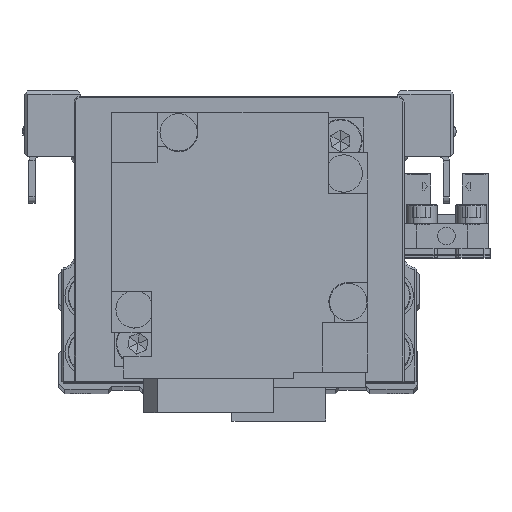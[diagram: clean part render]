
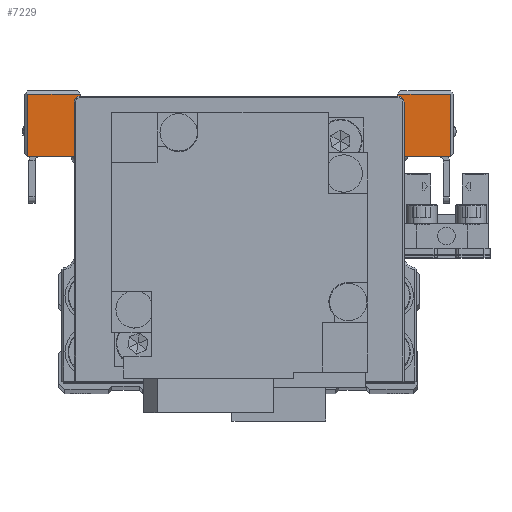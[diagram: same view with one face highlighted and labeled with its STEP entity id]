
A CAD part, top view. The second image highlights one B-rep face of the part: STEP entity #7229.
In plain terms, the highlighted planar face has unit normal (0, 0, 1) as drawn and (1, 0, 0) by its records, which use the part's own axes.
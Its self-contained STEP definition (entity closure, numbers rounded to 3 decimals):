
#137 = DIRECTION ( 'NONE',  ( -1., 0., 0. ) ) ;
#161 = VECTOR ( 'NONE', #4409, 1000. ) ;
#664 = VECTOR ( 'NONE', #23823, 1000. ) ;
#808 = CARTESIAN_POINT ( 'NONE',  ( 25.5, -6., 16.2 ) ) ;
#1200 = ORIENTED_EDGE ( 'NONE', *, *, #5223, .T. ) ;
#1356 = ORIENTED_EDGE ( 'NONE', *, *, #21248, .T. ) ;
#1783 = ORIENTED_EDGE ( 'NONE', *, *, #13338, .F. ) ;
#1923 = LINE ( 'NONE', #12518, #7744 ) ;
#1961 = VERTEX_POINT ( 'NONE', #12529 ) ;
#2060 = LINE ( 'NONE', #12661, #4453 ) ;
#2097 = CARTESIAN_POINT ( 'NONE',  ( 25.5, -5.7, -16.5 ) ) ;
#2290 = VECTOR ( 'NONE', #18064, 1000. ) ;
#2345 = DIRECTION ( 'NONE',  ( 0., 0., -1. ) ) ;
#2561 = CARTESIAN_POINT ( 'NONE',  ( 25.5, 15., 34. ) ) ;
#2636 = LINE ( 'NONE', #13241, #664 ) ;
#2729 = FACE_OUTER_BOUND ( 'NONE', #27398, .T. ) ;
#3119 = CARTESIAN_POINT ( 'NONE',  ( 25.5, 10.5, -25.5 ) ) ;
#3463 = CARTESIAN_POINT ( 'NONE',  ( 25.5, 15., 34. ) ) ;
#4409 = DIRECTION ( 'NONE',  ( 0., 1., 0. ) ) ;
#4453 = VECTOR ( 'NONE', #23248, 1000. ) ;
#4479 = VECTOR ( 'NONE', #33021, 1000. ) ;
#4487 = ORIENTED_EDGE ( 'NONE', *, *, #27923, .T. ) ;
#4833 = EDGE_CURVE ( 'NONE', #1961, #25211, #20871, .T. ) ;
#5223 = EDGE_CURVE ( 'NONE', #8534, #28576, #1923, .T. ) ;
#5721 = LINE ( 'NONE', #16323, #26115 ) ;
#6207 = VECTOR ( 'NONE', #14068, 1000. ) ;
#6334 = CARTESIAN_POINT ( 'NONE',  ( 25.5, -5.7, 16.5 ) ) ;
#6465 = ORIENTED_EDGE ( 'NONE', *, *, #4833, .T. ) ;
#6482 = AXIS2_PLACEMENT_3D ( 'NONE', #23930, #137, #10740 ) ;
#6743 = VECTOR ( 'NONE', #2345, 1000. ) ;
#7073 = ORIENTED_EDGE ( 'NONE', *, *, #16695, .T. ) ;
#7164 = DIRECTION ( 'NONE',  ( 0., 0., 1. ) ) ;
#7229 = ADVANCED_FACE ( 'NONE', ( #2729 ), #13336, .F. ) ;
#7476 = CARTESIAN_POINT ( 'NONE',  ( 25.5, 5., -16.5 ) ) ;
#7671 = DIRECTION ( 'NONE',  ( 0., 1., 0. ) ) ;
#7744 = VECTOR ( 'NONE', #23104, 1000. ) ;
#8110 = CARTESIAN_POINT ( 'NONE',  ( 25.5, -6., 16.2 ) ) ;
#8534 = VERTEX_POINT ( 'NONE', #2561 ) ;
#9316 = DIRECTION ( 'NONE',  ( 0., 0.707, -0.707 ) ) ;
#9428 = ORIENTED_EDGE ( 'NONE', *, *, #15120, .F. ) ;
#10417 = DIRECTION ( 'NONE',  ( 0., 0., -1. ) ) ;
#10740 = DIRECTION ( 'NONE',  ( 0., 0., 1. ) ) ;
#11084 = VERTEX_POINT ( 'NONE', #23688 ) ;
#11402 = DIRECTION ( 'NONE',  ( 0., -0.707, -0.707 ) ) ;
#11845 = LINE ( 'NONE', #22443, #4479 ) ;
#11853 = EDGE_CURVE ( 'NONE', #14826, #18847, #11845, .T. ) ;
#12355 = VECTOR ( 'NONE', #9316, 1000. ) ;
#12518 = CARTESIAN_POINT ( 'NONE',  ( 25.5, 5., 34. ) ) ;
#12529 = CARTESIAN_POINT ( 'NONE',  ( 25.5, 10.5, 25.5 ) ) ;
#12661 = CARTESIAN_POINT ( 'NONE',  ( 25.5, -6., 16.5 ) ) ;
#13241 = CARTESIAN_POINT ( 'NONE',  ( 25.5, 5., -34.5 ) ) ;
#13252 = VERTEX_POINT ( 'NONE', #2097 ) ;
#13336 = PLANE ( 'NONE',  #6482 ) ;
#13338 = EDGE_CURVE ( 'NONE', #1961, #14826, #23617, .T. ) ;
#14068 = DIRECTION ( 'NONE',  ( 0., 0., 1. ) ) ;
#14826 = VERTEX_POINT ( 'NONE', #3119 ) ;
#15120 = EDGE_CURVE ( 'NONE', #32423, #21683, #2060, .T. ) ;
#15538 = LINE ( 'NONE', #26148, #6743 ) ;
#15842 = CARTESIAN_POINT ( 'NONE',  ( 25.5, 15., -34. ) ) ;
#15908 = EDGE_CURVE ( 'NONE', #23877, #18847, #20372, .T. ) ;
#16216 = ORIENTED_EDGE ( 'NONE', *, *, #20191, .T. ) ;
#16239 = CARTESIAN_POINT ( 'NONE',  ( 25.5, 15., -25.5 ) ) ;
#16323 = CARTESIAN_POINT ( 'NONE',  ( 25.5, 5., 16.5 ) ) ;
#16695 = EDGE_CURVE ( 'NONE', #25211, #8534, #27271, .T. ) ;
#16838 = CARTESIAN_POINT ( 'NONE',  ( 25.5, -6., -16.2 ) ) ;
#17613 = LINE ( 'NONE', #28216, #161 ) ;
#18064 = DIRECTION ( 'NONE',  ( 0., -1., 0. ) ) ;
#18566 = EDGE_CURVE ( 'NONE', #32423, #13252, #22522, .T. ) ;
#18816 = ORIENTED_EDGE ( 'NONE', *, *, #15908, .T. ) ;
#18847 = VERTEX_POINT ( 'NONE', #16239 ) ;
#19117 = EDGE_CURVE ( 'NONE', #24166, #23877, #17613, .T. ) ;
#19816 = VECTOR ( 'NONE', #11402, 1000. ) ;
#20025 = VECTOR ( 'NONE', #7671, 1000. ) ;
#20191 = EDGE_CURVE ( 'NONE', #33789, #24166, #15538, .T. ) ;
#20330 = ORIENTED_EDGE ( 'NONE', *, *, #11853, .F. ) ;
#20372 = LINE ( 'NONE', #30962, #31119 ) ;
#20690 = EDGE_CURVE ( 'NONE', #28576, #11084, #2636, .T. ) ;
#20871 = LINE ( 'NONE', #31464, #20025 ) ;
#21248 = EDGE_CURVE ( 'NONE', #11084, #29673, #5721, .T. ) ;
#21406 = CARTESIAN_POINT ( 'NONE',  ( 25.5, 15., 25.5 ) ) ;
#21683 = VERTEX_POINT ( 'NONE', #8110 ) ;
#22443 = CARTESIAN_POINT ( 'NONE',  ( 25.5, 10.5, -25.5 ) ) ;
#22522 = LINE ( 'NONE', #33098, #12355 ) ;
#23104 = DIRECTION ( 'NONE',  ( 0., -1., 0. ) ) ;
#23248 = DIRECTION ( 'NONE',  ( 0., 0., 1. ) ) ;
#23617 = LINE ( 'NONE', #34200, #33769 ) ;
#23688 = CARTESIAN_POINT ( 'NONE',  ( 25.5, 5., 16.5 ) ) ;
#23823 = DIRECTION ( 'NONE',  ( 0., 0., -1. ) ) ;
#23877 = VERTEX_POINT ( 'NONE', #15842 ) ;
#23930 = CARTESIAN_POINT ( 'NONE',  ( 25.5, 5., -16.5 ) ) ;
#24166 = VERTEX_POINT ( 'NONE', #25564 ) ;
#24246 = EDGE_CURVE ( 'NONE', #33789, #13252, #31275, .T. ) ;
#24609 = LINE ( 'NONE', #808, #19816 ) ;
#25106 = ORIENTED_EDGE ( 'NONE', *, *, #18566, .T. ) ;
#25211 = VERTEX_POINT ( 'NONE', #21406 ) ;
#25564 = CARTESIAN_POINT ( 'NONE',  ( 25.5, 5., -34. ) ) ;
#26115 = VECTOR ( 'NONE', #26919, 1000. ) ;
#26148 = CARTESIAN_POINT ( 'NONE',  ( 25.5, 5., -34.5 ) ) ;
#26919 = DIRECTION ( 'NONE',  ( 0., -1., 0. ) ) ;
#27175 = ORIENTED_EDGE ( 'NONE', *, *, #24246, .F. ) ;
#27271 = LINE ( 'NONE', #3463, #6207 ) ;
#27398 = EDGE_LOOP ( 'NONE', ( #6465, #7073, #1200, #32831, #1356, #4487, #9428, #25106, #27175, #16216, #30527, #18816, #20330, #1783 ) ) ;
#27923 = EDGE_CURVE ( 'NONE', #29673, #21683, #24609, .T. ) ;
#28216 = CARTESIAN_POINT ( 'NONE',  ( 25.5, 5., -34. ) ) ;
#28576 = VERTEX_POINT ( 'NONE', #29001 ) ;
#29001 = CARTESIAN_POINT ( 'NONE',  ( 25.5, 5., 34. ) ) ;
#29673 = VERTEX_POINT ( 'NONE', #6334 ) ;
#30527 = ORIENTED_EDGE ( 'NONE', *, *, #19117, .T. ) ;
#30544 = CARTESIAN_POINT ( 'NONE',  ( 25.5, 5., -16.5 ) ) ;
#30962 = CARTESIAN_POINT ( 'NONE',  ( 25.5, 15., -25.5 ) ) ;
#31119 = VECTOR ( 'NONE', #7164, 1000. ) ;
#31275 = LINE ( 'NONE', #7476, #2290 ) ;
#31464 = CARTESIAN_POINT ( 'NONE',  ( 25.5, 10.5, 25.5 ) ) ;
#32423 = VERTEX_POINT ( 'NONE', #16838 ) ;
#32831 = ORIENTED_EDGE ( 'NONE', *, *, #20690, .T. ) ;
#33021 = DIRECTION ( 'NONE',  ( 0., 1., 0. ) ) ;
#33098 = CARTESIAN_POINT ( 'NONE',  ( 25.5, -6., -16.2 ) ) ;
#33769 = VECTOR ( 'NONE', #10417, 1000. ) ;
#33789 = VERTEX_POINT ( 'NONE', #30544 ) ;
#34200 = CARTESIAN_POINT ( 'NONE',  ( 25.5, 10.5, -25.5 ) ) ;
